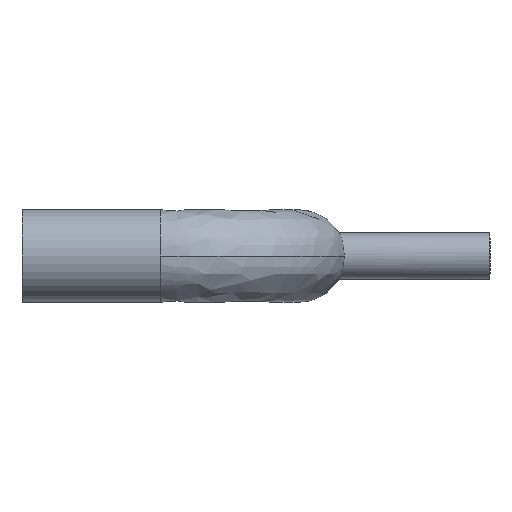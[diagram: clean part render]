
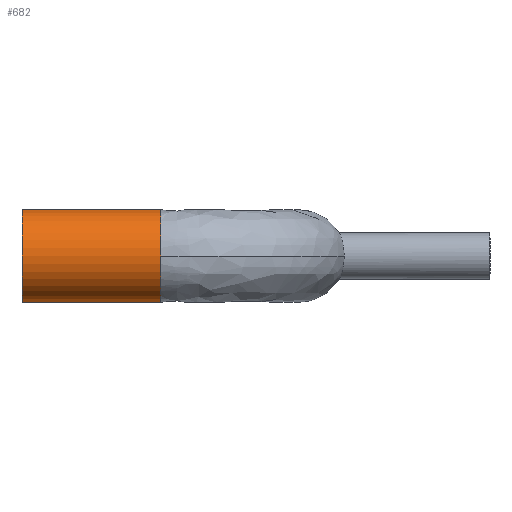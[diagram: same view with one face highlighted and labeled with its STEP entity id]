
A CAD part, left-side view. The second image highlights one B-rep face of the part: STEP entity #682.
In plain terms, the highlighted cylindrical face has radius 12.7 mm (diameter 25.4 mm), a partial arc.
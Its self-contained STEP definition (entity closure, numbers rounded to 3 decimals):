
#18 = CARTESIAN_POINT ( 'NONE',  ( -38.1, 38.1, 0. ) ) ;
#37 = EDGE_CURVE ( 'NONE', #719, #747, #722, .T. ) ;
#44 = DIRECTION ( 'NONE',  ( 0., -1., 0. ) ) ;
#65 = CARTESIAN_POINT ( 'NONE',  ( -38.1, 38.1, 0. ) ) ;
#67 = VECTOR ( 'NONE', #269, 1000. ) ;
#80 = VECTOR ( 'NONE', #188, 1000. ) ;
#85 = CIRCLE ( 'NONE', #502, 12.7 ) ;
#110 = LINE ( 'NONE', #683, #80 ) ;
#129 = EDGE_CURVE ( 'NONE', #614, #719, #401, .T. ) ;
#134 = DIRECTION ( 'NONE',  ( 0., -1., 0. ) ) ;
#188 = DIRECTION ( 'NONE',  ( 0., 1., 0. ) ) ;
#194 = ORIENTED_EDGE ( 'NONE', *, *, #483, .T. ) ;
#195 = ORIENTED_EDGE ( 'NONE', *, *, #424, .T. ) ;
#196 = ORIENTED_EDGE ( 'NONE', *, *, #129, .F. ) ;
#235 = CARTESIAN_POINT ( 'NONE',  ( -50.8, 38.1, 0. ) ) ;
#269 = DIRECTION ( 'NONE',  ( 0., 1., 0. ) ) ;
#290 = AXIS2_PLACEMENT_3D ( 'NONE', #18, #852, #335 ) ;
#293 = CARTESIAN_POINT ( 'NONE',  ( -38.1, 76.2, 0. ) ) ;
#294 = ORIENTED_EDGE ( 'NONE', *, *, #648, .F. ) ;
#335 = DIRECTION ( 'NONE',  ( 0., 0., 1. ) ) ;
#370 = DIRECTION ( 'NONE',  ( -1., 0., 0. ) ) ;
#381 = CYLINDRICAL_SURFACE ( 'NONE', #290, 12.7 ) ;
#386 = DIRECTION ( 'NONE',  ( -1., 0., 0. ) ) ;
#401 = CIRCLE ( 'NONE', #419, 12.7 ) ;
#408 = FACE_OUTER_BOUND ( 'NONE', #526, .T. ) ;
#419 = AXIS2_PLACEMENT_3D ( 'NONE', #65, #134, #386 ) ;
#424 = EDGE_CURVE ( 'NONE', #614, #841, #110, .T. ) ;
#445 = CARTESIAN_POINT ( 'NONE',  ( -38.1, 38.1, -12.7 ) ) ;
#447 = CARTESIAN_POINT ( 'NONE',  ( -38.1, 38.1, 0. ) ) ;
#458 = CARTESIAN_POINT ( 'NONE',  ( -38.1, 76.2, 12.7 ) ) ;
#483 = EDGE_CURVE ( 'NONE', #841, #594, #85, .T. ) ;
#502 = AXIS2_PLACEMENT_3D ( 'NONE', #293, #44, #672 ) ;
#526 = EDGE_LOOP ( 'NONE', ( #294, #598, #196, #195, #194 ) ) ;
#556 = LINE ( 'NONE', #445, #67 ) ;
#593 = AXIS2_PLACEMENT_3D ( 'NONE', #447, #877, #370 ) ;
#594 = VERTEX_POINT ( 'NONE', #723 ) ;
#598 = ORIENTED_EDGE ( 'NONE', *, *, #37, .F. ) ;
#614 = VERTEX_POINT ( 'NONE', #806 ) ;
#648 = EDGE_CURVE ( 'NONE', #747, #594, #556, .T. ) ;
#672 = DIRECTION ( 'NONE',  ( 0., 0., 1. ) ) ;
#682 = ADVANCED_FACE ( 'NONE', ( #408 ), #381, .T. ) ;
#683 = CARTESIAN_POINT ( 'NONE',  ( -38.1, 38.1, 12.7 ) ) ;
#719 = VERTEX_POINT ( 'NONE', #235 ) ;
#722 = CIRCLE ( 'NONE', #593, 12.7 ) ;
#723 = CARTESIAN_POINT ( 'NONE',  ( -38.1, 76.2, -12.7 ) ) ;
#744 = CARTESIAN_POINT ( 'NONE',  ( -38.1, 38.1, -12.7 ) ) ;
#747 = VERTEX_POINT ( 'NONE', #744 ) ;
#806 = CARTESIAN_POINT ( 'NONE',  ( -38.1, 38.1, 12.7 ) ) ;
#841 = VERTEX_POINT ( 'NONE', #458 ) ;
#852 = DIRECTION ( 'NONE',  ( 0., 1., 0. ) ) ;
#877 = DIRECTION ( 'NONE',  ( 0., -1., 0. ) ) ;
